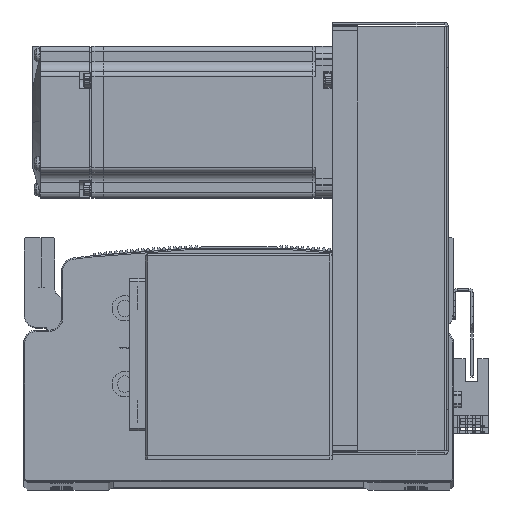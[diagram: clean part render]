
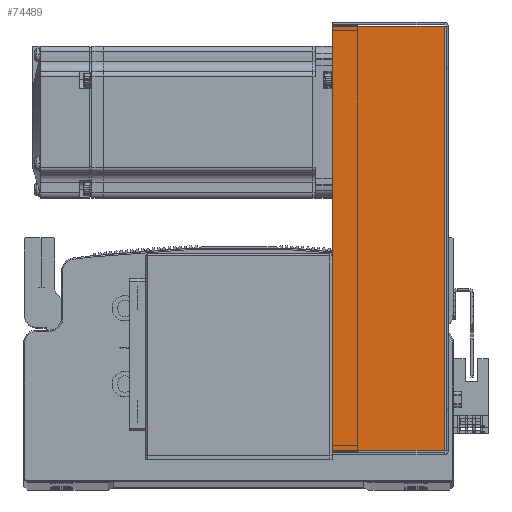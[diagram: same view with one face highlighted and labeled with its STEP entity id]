
A CAD part, top view. The second image highlights one B-rep face of the part: STEP entity #74489.
In plain terms, the highlighted planar face has unit normal (0, 0, 1).
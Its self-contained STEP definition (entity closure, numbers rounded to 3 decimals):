
#1943 = CARTESIAN_POINT ( 'NONE',  ( -83.793, 0., 40.5 ) ) ;
#1975 = DIRECTION ( 'NONE',  ( 0., 1., 0. ) ) ;
#2130 = CARTESIAN_POINT ( 'NONE',  ( -84.5, 45., 40.5 ) ) ;
#2133 = DIRECTION ( 'NONE',  ( -1., 0., 0. ) ) ;
#2248 = DIRECTION ( 'NONE',  ( 0., 1., 0. ) ) ;
#2283 = CARTESIAN_POINT ( 'NONE',  ( 0., 0.737, 40.5 ) ) ;
#2317 = DIRECTION ( 'NONE',  ( -1., 0., 0. ) ) ;
#2336 = CARTESIAN_POINT ( 'NONE',  ( 83.793, 0., 40.5 ) ) ;
#3370 = VECTOR ( 'NONE', #1975, 1000. ) ;
#3372 = LINE ( 'NONE', #1943, #3370 ) ;
#3378 = VECTOR ( 'NONE', #2133, 1000. ) ;
#3421 = LINE ( 'NONE', #2130, #3378 ) ;
#3435 = VECTOR ( 'NONE', #2317, 1000. ) ;
#3444 = LINE ( 'NONE', #2336, #3473 ) ;
#3473 = VECTOR ( 'NONE', #2248, 1000. ) ;
#3478 = LINE ( 'NONE', #2283, #3435 ) ;
#20742 = CARTESIAN_POINT ( 'NONE',  ( -83.793, 0.737, 40.5 ) ) ;
#20758 = CARTESIAN_POINT ( 'NONE',  ( -83.793, 45., 40.5 ) ) ;
#20774 = CARTESIAN_POINT ( 'NONE',  ( 83.793, 45., 40.5 ) ) ;
#20805 = CARTESIAN_POINT ( 'NONE',  ( 83.793, 0.737, 40.5 ) ) ;
#33632 = ORIENTED_EDGE ( 'NONE', *, *, #53231, .T. ) ;
#33633 = ORIENTED_EDGE ( 'NONE', *, *, #53217, .F. ) ;
#33651 = ORIENTED_EDGE ( 'NONE', *, *, #53252, .T. ) ;
#33698 = ORIENTED_EDGE ( 'NONE', *, *, #53257, .F. ) ;
#43001 = EDGE_LOOP ( 'NONE', ( #33698, #33651, #33632, #33633 ) ) ;
#51571 = FACE_OUTER_BOUND ( 'NONE', #43001, .T. ) ;
#53217 = EDGE_CURVE ( 'NONE', #61694, #61691, #3372, .T. ) ;
#53231 = EDGE_CURVE ( 'NONE', #61767, #61691, #3421, .T. ) ;
#53252 = EDGE_CURVE ( 'NONE', #61768, #61767, #3444, .T. ) ;
#53257 = EDGE_CURVE ( 'NONE', #61768, #61694, #3478, .T. ) ;
#61691 = VERTEX_POINT ( 'NONE', #20758 ) ;
#61694 = VERTEX_POINT ( 'NONE', #20742 ) ;
#61767 = VERTEX_POINT ( 'NONE', #20774 ) ;
#61768 = VERTEX_POINT ( 'NONE', #20805 ) ;
#63024 = AXIS2_PLACEMENT_3D ( 'NONE', #66332, #66341, #66343 ) ;
#66286 = PLANE ( 'NONE',  #63024 ) ;
#66332 = CARTESIAN_POINT ( 'NONE',  ( 0., 0., 40.5 ) ) ;
#66341 = DIRECTION ( 'NONE',  ( 0., 0., -1. ) ) ;
#66343 = DIRECTION ( 'NONE',  ( -1., 0., 0. ) ) ;
#74489 = ADVANCED_FACE ( 'NONE', ( #51571 ), #66286, .F. ) ;
